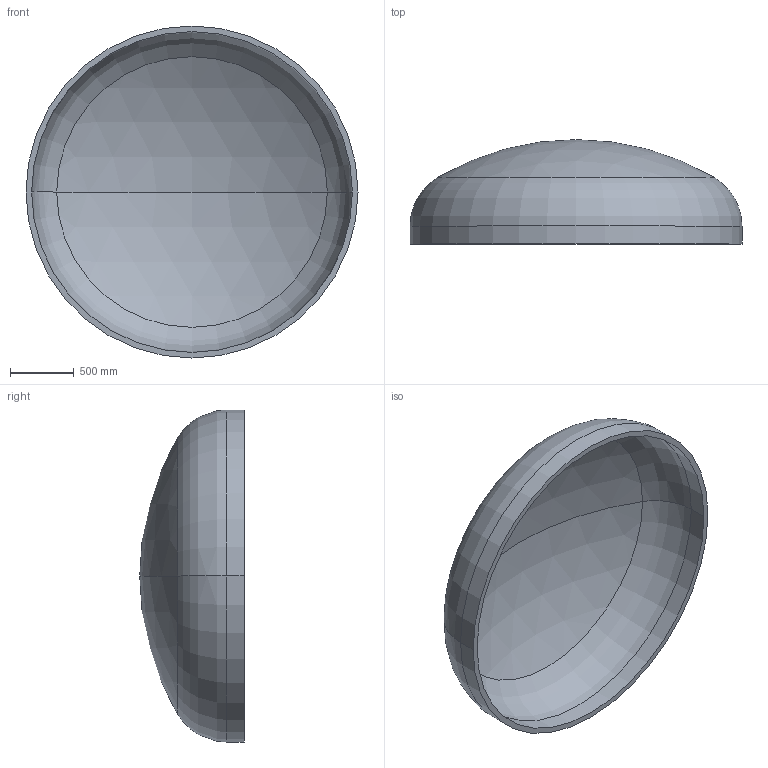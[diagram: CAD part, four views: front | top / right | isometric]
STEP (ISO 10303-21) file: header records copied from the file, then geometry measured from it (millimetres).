
FILE_DESCRIPTION (( 'STEP AP203' ), '1' );
FILE_NAME ('DIN 28013 Korbbogenform_-_Boden DIN 28013 - 2600 x 140 - I - s=44.step', '2016-07-01T16:12:41', ( '' ), ( '' ), 'SwSTEP 2.0', 'SolidWorks 2013', '' );
FILE_SCHEMA (( 'CONFIG_CONTROL_DESIGN' ));
Length unit declared in the file: millimetre
Products named in the file (1): DIN 28013 Korbbogenform_-_Boden DIN 28013 - 2600 x 140 - I - s=44
Bounding box: 2600 x 818.43 x 2600 mm (x, y, z)
Volume: 365803665.9 mm3; surface area: 16984804.7 mm2
Topology: 1 solids, 1 shells, 13 faces, 24 edges, 14 vertices
Faces by surface type: torus 4, cylinder 4, sphere 4, plane 1
Entity records: 407 total; most frequent: DIRECTION 72, CARTESIAN_POINT 52, ORIENTED_EDGE 48, AXIS2_PLACEMENT_3D 34, EDGE_CURVE 24, CIRCLE 20, EDGE_LOOP 14, VERTEX_POINT 14
